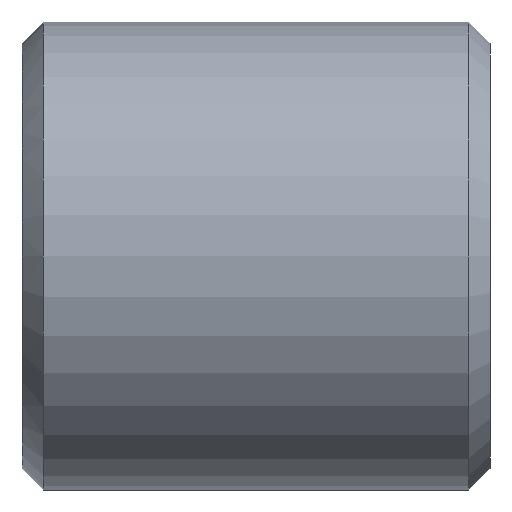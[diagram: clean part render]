
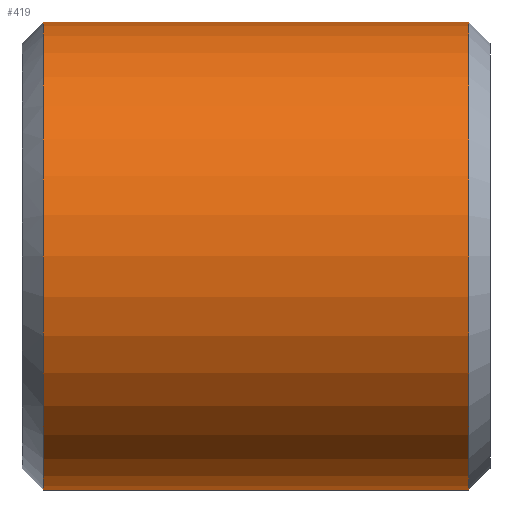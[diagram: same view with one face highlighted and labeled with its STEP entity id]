
A CAD part, front view. The second image highlights one B-rep face of the part: STEP entity #419.
In plain terms, the highlighted cylindrical face has radius 11 mm (diameter 22 mm), a partial arc.
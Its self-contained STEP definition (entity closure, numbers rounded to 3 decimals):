
#231=CARTESIAN_POINT('Vertex',(1.,0.,-11.)) ;
#238=CARTESIAN_POINT('Vertex',(1.,0.,11.)) ;
#267=CARTESIAN_POINT('Axis2P3D Location',(1.,0.,0.)) ;
#271=CARTESIAN_POINT('Vertex',(1.,-11.,0.)) ;
#274=CARTESIAN_POINT('Axis2P3D Location',(1.,0.,0.)) ;
#359=CARTESIAN_POINT('Line Origine',(22.,0.,11.)) ;
#363=CARTESIAN_POINT('Vertex',(21.,0.,11.)) ;
#377=CARTESIAN_POINT('Vertex',(21.,0.,-11.)) ;
#380=CARTESIAN_POINT('Line Origine',(22.,0.,-11.)) ;
#394=CARTESIAN_POINT('Axis2P3D Location',(22.,0.,0.)) ;
#399=CARTESIAN_POINT('Axis2P3D Location',(21.,0.,0.)) ;
#403=CARTESIAN_POINT('Vertex',(21.,-11.,0.)) ;
#406=CARTESIAN_POINT('Axis2P3D Location',(21.,0.,0.)) ;
#268=DIRECTION('Axis2P3D Direction',(1.,0.,-0.)) ;
#275=DIRECTION('Axis2P3D Direction',(1.,0.,-0.)) ;
#360=DIRECTION('Vector Direction',(-1.,0.,0.)) ;
#381=DIRECTION('Vector Direction',(-1.,0.,0.)) ;
#395=DIRECTION('Axis2P3D Direction',(-1.,-0.,-0.)) ;
#396=DIRECTION('Axis2P3D XDirection',(0.,0.,-1.)) ;
#400=DIRECTION('Axis2P3D Direction',(-1.,-0.,-0.)) ;
#407=DIRECTION('Axis2P3D Direction',(-1.,-0.,-0.)) ;
#269=AXIS2_PLACEMENT_3D('Circle Axis2P3D',#267,#268,$) ;
#276=AXIS2_PLACEMENT_3D('Circle Axis2P3D',#274,#275,$) ;
#397=AXIS2_PLACEMENT_3D('Cylinder Axis2P3D',#394,#395,#396) ;
#401=AXIS2_PLACEMENT_3D('Circle Axis2P3D',#399,#400,$) ;
#408=AXIS2_PLACEMENT_3D('Circle Axis2P3D',#406,#407,$) ;
#412=ORIENTED_EDGE('',*,*,#384,.T.) ;
#413=ORIENTED_EDGE('',*,*,#405,.F.) ;
#414=ORIENTED_EDGE('',*,*,#410,.F.) ;
#415=ORIENTED_EDGE('',*,*,#365,.T.) ;
#416=ORIENTED_EDGE('',*,*,#278,.T.) ;
#417=ORIENTED_EDGE('',*,*,#273,.T.) ;
#361=VECTOR('Line Direction',#360,1.) ;
#382=VECTOR('Line Direction',#381,1.) ;
#419=ADVANCED_FACE('352-16X22',(#418),#398,.T.) ;
#270=CIRCLE('generated circle',#269,11.) ;
#277=CIRCLE('generated circle',#276,11.) ;
#402=CIRCLE('generated circle',#401,11.) ;
#409=CIRCLE('generated circle',#408,11.) ;
#398=CYLINDRICAL_SURFACE('generated cylinder',#397,11.) ;
#273=EDGE_CURVE('',#272,#232,#270,.T.) ;
#278=EDGE_CURVE('',#239,#272,#277,.T.) ;
#365=EDGE_CURVE('',#364,#239,#362,.T.) ;
#384=EDGE_CURVE('',#232,#378,#383,.F.) ;
#405=EDGE_CURVE('',#404,#378,#402,.F.) ;
#410=EDGE_CURVE('',#364,#404,#409,.F.) ;
#411=EDGE_LOOP('',(#412,#413,#414,#415,#416,#417)) ;
#418=FACE_OUTER_BOUND('',#411,.T.) ;
#362=LINE('Line',#359,#361) ;
#383=LINE('Line',#380,#382) ;
#232=VERTEX_POINT('',#231) ;
#239=VERTEX_POINT('',#238) ;
#272=VERTEX_POINT('',#271) ;
#364=VERTEX_POINT('',#363) ;
#378=VERTEX_POINT('',#377) ;
#404=VERTEX_POINT('',#403) ;
